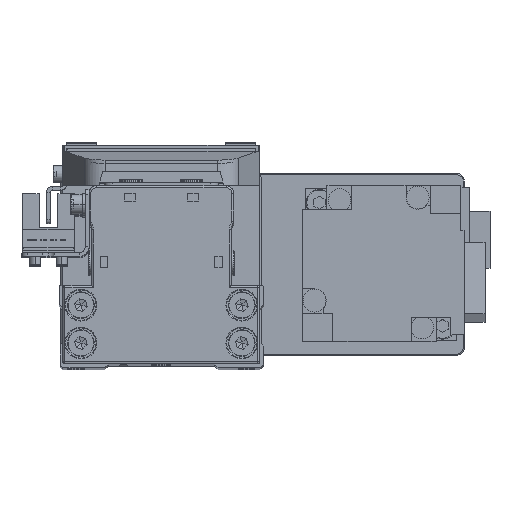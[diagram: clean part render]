
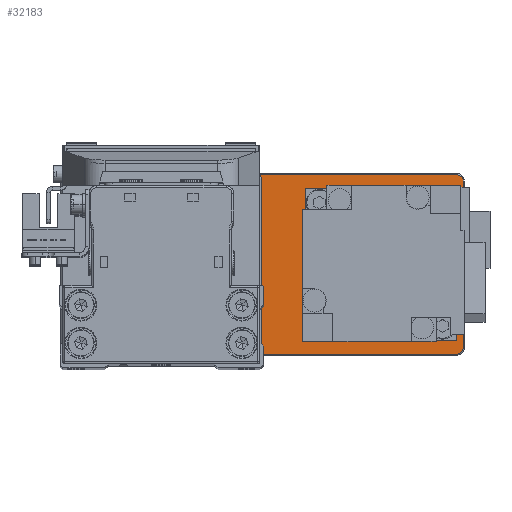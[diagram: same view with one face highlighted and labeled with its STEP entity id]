
A CAD part, top view. The second image highlights one B-rep face of the part: STEP entity #32183.
In plain terms, the highlighted planar face has unit normal (0, 0, 1).
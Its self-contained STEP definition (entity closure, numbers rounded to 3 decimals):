
#526 = EDGE_CURVE ( 'NONE', #39638, #20464, #37920, .T. ) ;
#586 = CARTESIAN_POINT ( 'NONE',  ( 17.2, 0., 5. ) ) ;
#695 = EDGE_CURVE ( 'NONE', #10127, #19957, #19966, .T. ) ;
#2453 = VERTEX_POINT ( 'NONE', #9709 ) ;
#2507 = CIRCLE ( 'NONE', #7644, 12.8 ) ;
#2629 = AXIS2_PLACEMENT_3D ( 'NONE', #26970, #39223, #11675 ) ;
#2655 = VERTEX_POINT ( 'NONE', #11889 ) ;
#2840 = LINE ( 'NONE', #15102, #7282 ) ;
#3226 = CIRCLE ( 'NONE', #25703, 1.7 ) ;
#3256 = LINE ( 'NONE', #15508, #10135 ) ;
#3487 = CIRCLE ( 'NONE', #25952, 1.7 ) ;
#3808 = ORIENTED_EDGE ( 'NONE', *, *, #5520, .T. ) ;
#3886 = CARTESIAN_POINT ( 'NONE',  ( -50., -22., 5. ) ) ;
#4272 = DIRECTION ( 'NONE',  ( 1., 0., 0. ) ) ;
#4357 = CARTESIAN_POINT ( 'NONE',  ( 50., -23.7, 5. ) ) ;
#4388 = VERTEX_POINT ( 'NONE', #586 ) ;
#4458 = CARTESIAN_POINT ( 'NONE',  ( 51.7, -22., 5. ) ) ;
#4599 = CARTESIAN_POINT ( 'NONE',  ( 30., 0., 5. ) ) ;
#5520 = EDGE_CURVE ( 'NONE', #10804, #8775, #3487, .T. ) ;
#5573 = LINE ( 'NONE', #17835, #27429 ) ;
#6563 = EDGE_CURVE ( 'NONE', #30213, #10804, #25670, .T. ) ;
#7086 = DIRECTION ( 'NONE',  ( 0., 0., -1. ) ) ;
#7282 = VECTOR ( 'NONE', #27378, 1000. ) ;
#7334 = CARTESIAN_POINT ( 'NONE',  ( 50., 23.7, 5. ) ) ;
#7535 = CARTESIAN_POINT ( 'NONE',  ( -50., 23.7, 5. ) ) ;
#7595 = ORIENTED_EDGE ( 'NONE', *, *, #6563, .T. ) ;
#7644 = AXIS2_PLACEMENT_3D ( 'NONE', #4599, #16855, #29133 ) ;
#7894 = DIRECTION ( 'NONE',  ( 0., 0., 1. ) ) ;
#8239 = DIRECTION ( 'NONE',  ( 1., 0., 0. ) ) ;
#8775 = VERTEX_POINT ( 'NONE', #4458 ) ;
#9169 = AXIS2_PLACEMENT_3D ( 'NONE', #12815, #25072, #37321 ) ;
#9241 = EDGE_CURVE ( 'NONE', #2655, #4388, #2507, .T. ) ;
#9581 = CIRCLE ( 'NONE', #32067, 12.8 ) ;
#9709 = CARTESIAN_POINT ( 'NONE',  ( 51.7, 22., 5. ) ) ;
#10127 = VERTEX_POINT ( 'NONE', #7535 ) ;
#10135 = VECTOR ( 'NONE', #27779, 1000. ) ;
#10367 = DIRECTION ( 'NONE',  ( 1., 0., 0. ) ) ;
#10393 = EDGE_CURVE ( 'NONE', #2453, #22620, #3226, .T. ) ;
#10421 = DIRECTION ( 'NONE',  ( 0., 0., 1. ) ) ;
#10804 = VERTEX_POINT ( 'NONE', #4357 ) ;
#11128 = EDGE_CURVE ( 'NONE', #4388, #2655, #9581, .T. ) ;
#11245 = PLANE ( 'NONE',  #15155 ) ;
#11675 = DIRECTION ( 'NONE',  ( 1., 0., 0. ) ) ;
#11889 = CARTESIAN_POINT ( 'NONE',  ( 42.8, 0., 5. ) ) ;
#11908 = ORIENTED_EDGE ( 'NONE', *, *, #24623, .T. ) ;
#12815 = CARTESIAN_POINT ( 'NONE',  ( -28., 0., 5. ) ) ;
#13848 = CARTESIAN_POINT ( 'NONE',  ( -38.3, 0., 5. ) ) ;
#14270 = FACE_BOUND ( 'NONE', #24140, .T. ) ;
#14298 = EDGE_CURVE ( 'NONE', #18448, #30213, #16838, .T. ) ;
#15102 = CARTESIAN_POINT ( 'NONE',  ( 51.7, 22., 5. ) ) ;
#15155 = AXIS2_PLACEMENT_3D ( 'NONE', #23516, #35768, #8239 ) ;
#15303 = EDGE_CURVE ( 'NONE', #20464, #39638, #26506, .T. ) ;
#15508 = CARTESIAN_POINT ( 'NONE',  ( -51.7, -22., 5. ) ) ;
#16139 = DIRECTION ( 'NONE',  ( 0., 0., 1. ) ) ;
#16687 = ORIENTED_EDGE ( 'NONE', *, *, #36123, .T. ) ;
#16838 = CIRCLE ( 'NONE', #39311, 1.7 ) ;
#16855 = DIRECTION ( 'NONE',  ( 0., 0., -1. ) ) ;
#17021 = VECTOR ( 'NONE', #10367, 1000. ) ;
#17210 = ORIENTED_EDGE ( 'NONE', *, *, #9241, .T. ) ;
#17835 = CARTESIAN_POINT ( 'NONE',  ( -50., 23.7, 5. ) ) ;
#18448 = VERTEX_POINT ( 'NONE', #35250 ) ;
#19348 = DIRECTION ( 'NONE',  ( 1., 0., 0. ) ) ;
#19546 = CARTESIAN_POINT ( 'NONE',  ( -28., 0., 5. ) ) ;
#19768 = EDGE_LOOP ( 'NONE', ( #29416, #29377 ) ) ;
#19957 = VERTEX_POINT ( 'NONE', #27605 ) ;
#19966 = CIRCLE ( 'NONE', #2629, 1.7 ) ;
#20164 = DIRECTION ( 'NONE',  ( 1., 0., 0. ) ) ;
#20464 = VERTEX_POINT ( 'NONE', #33979 ) ;
#20592 = AXIS2_PLACEMENT_3D ( 'NONE', #19546, #31815, #4272 ) ;
#21474 = ORIENTED_EDGE ( 'NONE', *, *, #10393, .T. ) ;
#22620 = VERTEX_POINT ( 'NONE', #7334 ) ;
#22701 = DIRECTION ( 'NONE',  ( 1., 0., 0. ) ) ;
#23516 = CARTESIAN_POINT ( 'NONE',  ( 0., 0., 5. ) ) ;
#24140 = EDGE_LOOP ( 'NONE', ( #17210, #36776 ) ) ;
#24623 = EDGE_CURVE ( 'NONE', #8775, #2453, #2840, .T. ) ;
#25072 = DIRECTION ( 'NONE',  ( 0., 0., -1. ) ) ;
#25670 = LINE ( 'NONE', #37916, #17021 ) ;
#25703 = AXIS2_PLACEMENT_3D ( 'NONE', #37969, #10421, #22701 ) ;
#25952 = AXIS2_PLACEMENT_3D ( 'NONE', #35433, #7894, #20164 ) ;
#26506 = CIRCLE ( 'NONE', #9169, 10.3 ) ;
#26533 = FACE_BOUND ( 'NONE', #19768, .T. ) ;
#26970 = CARTESIAN_POINT ( 'NONE',  ( -50., 22., 5. ) ) ;
#27378 = DIRECTION ( 'NONE',  ( 0., 1., 0. ) ) ;
#27429 = VECTOR ( 'NONE', #30109, 1000. ) ;
#27605 = CARTESIAN_POINT ( 'NONE',  ( -51.7, 22., 5. ) ) ;
#27779 = DIRECTION ( 'NONE',  ( 0., -1., 0. ) ) ;
#28230 = ORIENTED_EDGE ( 'NONE', *, *, #695, .T. ) ;
#28418 = DIRECTION ( 'NONE',  ( 1., 0., 0. ) ) ;
#29133 = DIRECTION ( 'NONE',  ( 1., 0., 0. ) ) ;
#29377 = ORIENTED_EDGE ( 'NONE', *, *, #526, .T. ) ;
#29416 = ORIENTED_EDGE ( 'NONE', *, *, #15303, .T. ) ;
#30109 = DIRECTION ( 'NONE',  ( -1., 0., 0. ) ) ;
#30213 = VERTEX_POINT ( 'NONE', #34923 ) ;
#30726 = EDGE_LOOP ( 'NONE', ( #7595, #3808, #11908, #21474, #16687, #28230, #35499, #39234 ) ) ;
#31815 = DIRECTION ( 'NONE',  ( 0., 0., -1. ) ) ;
#32067 = AXIS2_PLACEMENT_3D ( 'NONE', #34623, #7086, #19348 ) ;
#32183 = ADVANCED_FACE ( 'NONE', ( #14270, #26533, #38787 ), #11245, .T. ) ;
#33979 = CARTESIAN_POINT ( 'NONE',  ( -17.7, 0., 5. ) ) ;
#34623 = CARTESIAN_POINT ( 'NONE',  ( 30., 0., 5. ) ) ;
#34923 = CARTESIAN_POINT ( 'NONE',  ( -50., -23.7, 5. ) ) ;
#35250 = CARTESIAN_POINT ( 'NONE',  ( -51.7, -22., 5. ) ) ;
#35433 = CARTESIAN_POINT ( 'NONE',  ( 50., -22., 5. ) ) ;
#35499 = ORIENTED_EDGE ( 'NONE', *, *, #37034, .T. ) ;
#35768 = DIRECTION ( 'NONE',  ( 0., 0., 1. ) ) ;
#36123 = EDGE_CURVE ( 'NONE', #22620, #10127, #5573, .T. ) ;
#36776 = ORIENTED_EDGE ( 'NONE', *, *, #11128, .T. ) ;
#37034 = EDGE_CURVE ( 'NONE', #19957, #18448, #3256, .T. ) ;
#37321 = DIRECTION ( 'NONE',  ( 1., 0., 0. ) ) ;
#37916 = CARTESIAN_POINT ( 'NONE',  ( 50., -23.7, 5. ) ) ;
#37920 = CIRCLE ( 'NONE', #20592, 10.3 ) ;
#37969 = CARTESIAN_POINT ( 'NONE',  ( 50., 22., 5. ) ) ;
#38787 = FACE_OUTER_BOUND ( 'NONE', #30726, .T. ) ;
#39223 = DIRECTION ( 'NONE',  ( 0., 0., 1. ) ) ;
#39234 = ORIENTED_EDGE ( 'NONE', *, *, #14298, .T. ) ;
#39311 = AXIS2_PLACEMENT_3D ( 'NONE', #3886, #16139, #28418 ) ;
#39638 = VERTEX_POINT ( 'NONE', #13848 ) ;
